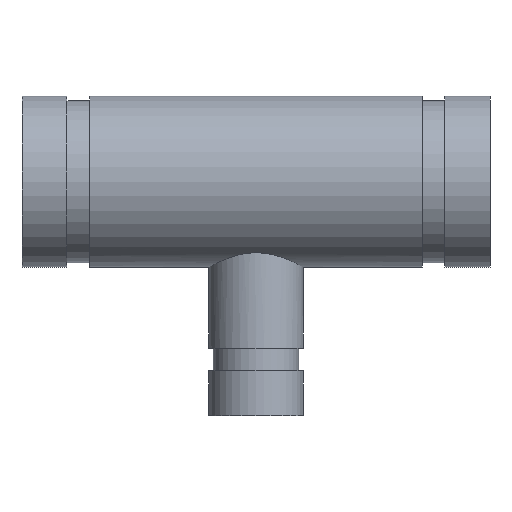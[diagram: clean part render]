
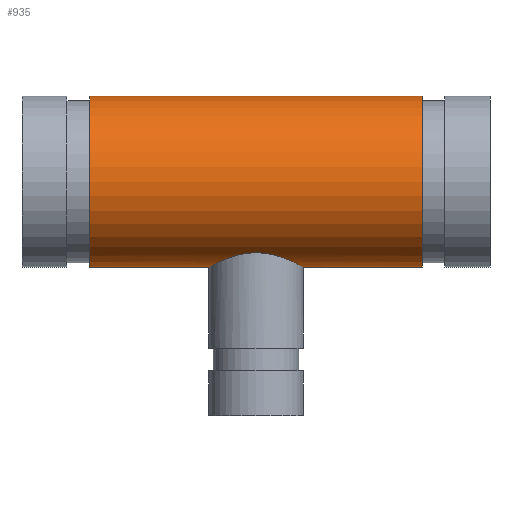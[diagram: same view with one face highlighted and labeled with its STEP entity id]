
A CAD part, top view. The second image highlights one B-rep face of the part: STEP entity #935.
In plain terms, the highlighted cylindrical face has radius 30.163 mm (diameter 60.325 mm), a full revolution.
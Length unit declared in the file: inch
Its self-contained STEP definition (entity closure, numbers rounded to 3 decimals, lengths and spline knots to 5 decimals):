
#61=FACE_BOUND('',#222,.T.);
#67=B_SPLINE_CURVE_WITH_KNOTS('',3,(#1791,#1792,#1793,#1794,#1795,#1796,
#1797,#1798,#1799,#1800,#1801,#1802,#1803,#1804,#1805,#1806),
 .UNSPECIFIED.,.F.,.F.,(4,2,2,2,2,2,2,4),(0.,0.32343,0.64685,
1.29371,1.61572,1.93773,2.25974,2.58175),
 .UNSPECIFIED.);
#68=B_SPLINE_CURVE_WITH_KNOTS('',3,(#1807,#1808,#1809,#1810,#1811,#1812,
#1813,#1814,#1815,#1816,#1817,#1818,#1819,#1820,#1821,#1822,#1823,#1824,
#1825,#1826,#1827,#1828,#1829,#1830,#1831,#1832,#1833,#1834,#1835,#1836,
#1837,#1838,#1839,#1840,#1841,#1842,#1843,#1844,#1845,#1846,#1847,#1848,
#1849,#1850),.UNSPECIFIED.,.F.,.F.,(4,2,2,2,2,2,2,2,2,2,2,2,2,2,2,2,2,2,
2,2,2,4),(2.58175,2.90376,3.22577,3.54778,
3.8698,4.51665,4.84008,5.16351,5.48693,
5.81036,6.45721,6.77923,7.10124,7.42325,
7.74526,8.06727,8.38928,8.71129,9.0333,
9.68016,10.00358,10.32701),.UNSPECIFIED.);
#81=CYLINDRICAL_SURFACE('',#1104,1.1875);
#103=LINE('',#1788,#125);
#125=VECTOR('',#1432,1.1875);
#171=FACE_OUTER_BOUND('',#221,.T.);
#221=EDGE_LOOP('',(#814,#815,#816,#817));
#222=EDGE_LOOP('',(#818,#819));
#326=CIRCLE('',#1087,1.1875);
#337=CIRCLE('',#1103,1.1875);
#424=VERTEX_POINT('',#1756);
#435=VERTEX_POINT('',#1785);
#436=VERTEX_POINT('',#1789);
#437=VERTEX_POINT('',#1790);
#552=EDGE_CURVE('',#424,#424,#326,.T.);
#565=EDGE_CURVE('',#435,#435,#337,.T.);
#566=EDGE_CURVE('',#435,#424,#103,.T.);
#567=EDGE_CURVE('',#436,#437,#67,.T.);
#568=EDGE_CURVE('',#437,#436,#68,.T.);
#814=ORIENTED_EDGE('',*,*,#565,.T.);
#815=ORIENTED_EDGE('',*,*,#566,.T.);
#816=ORIENTED_EDGE('',*,*,#552,.T.);
#817=ORIENTED_EDGE('',*,*,#566,.F.);
#818=ORIENTED_EDGE('',*,*,#567,.T.);
#819=ORIENTED_EDGE('',*,*,#568,.T.);
#935=ADVANCED_FACE('',(#171,#61),#81,.T.);
#1087=AXIS2_PLACEMENT_3D('',#1757,#1394,#1395);
#1103=AXIS2_PLACEMENT_3D('',#1786,#1428,#1429);
#1104=AXIS2_PLACEMENT_3D('',#1787,#1430,#1431);
#1394=DIRECTION('center_axis',(-1.,0.,0.));
#1395=DIRECTION('ref_axis',(0.,-1.,0.));
#1428=DIRECTION('center_axis',(1.,0.,0.));
#1429=DIRECTION('ref_axis',(0.,-1.,0.));
#1430=DIRECTION('center_axis',(-1.,0.,0.));
#1431=DIRECTION('ref_axis',(0.,-1.,0.));
#1432=DIRECTION('',(1.,0.,0.));
#1756=CARTESIAN_POINT('',(2.312,1.1875,0.));
#1757=CARTESIAN_POINT('Origin',(2.312,0.,0.));
#1785=CARTESIAN_POINT('',(-2.312,1.1875,0.));
#1786=CARTESIAN_POINT('Origin',(-2.312,0.,0.));
#1787=CARTESIAN_POINT('Origin',(3.25,0.,0.));
#1788=CARTESIAN_POINT('',(3.25,1.1875,0.));
#1789=CARTESIAN_POINT('',(0.,-0.98886,-0.6575));
#1790=CARTESIAN_POINT('',(-0.6575,-1.1875,0.));
#1791=CARTESIAN_POINT('Ctrl Pts',(0.,-0.98886,-0.6575));
#1792=CARTESIAN_POINT('Ctrl Pts',(-0.04244,-0.98886,
-0.6575));
#1793=CARTESIAN_POINT('Ctrl Pts',(-0.08592,-0.99168,
-0.65333));
#1794=CARTESIAN_POINT('Ctrl Pts',(-0.17166,-1.00275,
-0.6362));
#1795=CARTESIAN_POINT('Ctrl Pts',(-0.21393,-1.01099,
-0.62326));
#1796=CARTESIAN_POINT('Ctrl Pts',(-0.3348,-1.04108,
-0.57258));
#1797=CARTESIAN_POINT('Ctrl Pts',(-0.40744,-1.06825,
-0.5224));
#1798=CARTESIAN_POINT('Ctrl Pts',(-0.49354,-1.10488,
-0.43631));
#1799=CARTESIAN_POINT('Ctrl Pts',(-0.52056,-1.11731,
-0.40392));
#1800=CARTESIAN_POINT('Ctrl Pts',(-0.56851,-1.14044,
-0.33307));
#1801=CARTESIAN_POINT('Ctrl Pts',(-0.58944,-1.15112,-0.2946));
#1802=CARTESIAN_POINT('Ctrl Pts',(-0.6233,-1.16882,
-0.21383));
#1803=CARTESIAN_POINT('Ctrl Pts',(-0.63626,-1.17585,
-0.17146));
#1804=CARTESIAN_POINT('Ctrl Pts',(-0.65336,-1.18519,
-0.08567));
#1805=CARTESIAN_POINT('Ctrl Pts',(-0.6575,-1.1875,-0.04226));
#1806=CARTESIAN_POINT('Ctrl Pts',(-0.6575,-1.1875,0.));
#1807=CARTESIAN_POINT('Ctrl Pts',(-0.6575,-1.1875,0.));
#1808=CARTESIAN_POINT('Ctrl Pts',(-0.6575,-1.1875,0.04226));
#1809=CARTESIAN_POINT('Ctrl Pts',(-0.65336,-1.18519,
0.08567));
#1810=CARTESIAN_POINT('Ctrl Pts',(-0.63626,-1.17585,
0.17146));
#1811=CARTESIAN_POINT('Ctrl Pts',(-0.6233,-1.16882,
0.21383));
#1812=CARTESIAN_POINT('Ctrl Pts',(-0.58944,-1.15112,0.2946));
#1813=CARTESIAN_POINT('Ctrl Pts',(-0.56851,-1.14044,
0.33307));
#1814=CARTESIAN_POINT('Ctrl Pts',(-0.52056,-1.11731,
0.40392));
#1815=CARTESIAN_POINT('Ctrl Pts',(-0.49354,-1.10488,
0.43631));
#1816=CARTESIAN_POINT('Ctrl Pts',(-0.40744,-1.06825,
0.5224));
#1817=CARTESIAN_POINT('Ctrl Pts',(-0.3348,-1.04108,
0.57258));
#1818=CARTESIAN_POINT('Ctrl Pts',(-0.21393,-1.01099,
0.62326));
#1819=CARTESIAN_POINT('Ctrl Pts',(-0.17166,-1.00275,
0.6362));
#1820=CARTESIAN_POINT('Ctrl Pts',(-0.08592,-0.99168,
0.65333));
#1821=CARTESIAN_POINT('Ctrl Pts',(-0.04244,-0.98886,
0.6575));
#1822=CARTESIAN_POINT('Ctrl Pts',(0.04244,-0.98886,
0.6575));
#1823=CARTESIAN_POINT('Ctrl Pts',(0.08592,-0.99168,
0.65333));
#1824=CARTESIAN_POINT('Ctrl Pts',(0.17166,-1.00275,0.6362));
#1825=CARTESIAN_POINT('Ctrl Pts',(0.21393,-1.01099,0.62326));
#1826=CARTESIAN_POINT('Ctrl Pts',(0.3348,-1.04108,0.57258));
#1827=CARTESIAN_POINT('Ctrl Pts',(0.40744,-1.06825,0.5224));
#1828=CARTESIAN_POINT('Ctrl Pts',(0.49354,-1.10488,0.43631));
#1829=CARTESIAN_POINT('Ctrl Pts',(0.52056,-1.11731,0.40392));
#1830=CARTESIAN_POINT('Ctrl Pts',(0.56851,-1.14044,0.33307));
#1831=CARTESIAN_POINT('Ctrl Pts',(0.58944,-1.15112,0.2946));
#1832=CARTESIAN_POINT('Ctrl Pts',(0.6233,-1.16882,0.21383));
#1833=CARTESIAN_POINT('Ctrl Pts',(0.63626,-1.17585,0.17146));
#1834=CARTESIAN_POINT('Ctrl Pts',(0.65336,-1.18519,0.08567));
#1835=CARTESIAN_POINT('Ctrl Pts',(0.6575,-1.1875,0.04226));
#1836=CARTESIAN_POINT('Ctrl Pts',(0.6575,-1.1875,-0.04226));
#1837=CARTESIAN_POINT('Ctrl Pts',(0.65336,-1.18519,-0.08567));
#1838=CARTESIAN_POINT('Ctrl Pts',(0.63626,-1.17585,-0.17146));
#1839=CARTESIAN_POINT('Ctrl Pts',(0.6233,-1.16882,-0.21383));
#1840=CARTESIAN_POINT('Ctrl Pts',(0.58944,-1.15112,-0.2946));
#1841=CARTESIAN_POINT('Ctrl Pts',(0.56851,-1.14044,-0.33307));
#1842=CARTESIAN_POINT('Ctrl Pts',(0.52056,-1.11731,-0.40392));
#1843=CARTESIAN_POINT('Ctrl Pts',(0.49354,-1.10488,-0.43631));
#1844=CARTESIAN_POINT('Ctrl Pts',(0.40744,-1.06825,-0.5224));
#1845=CARTESIAN_POINT('Ctrl Pts',(0.3348,-1.04108,-0.57258));
#1846=CARTESIAN_POINT('Ctrl Pts',(0.21393,-1.01099,-0.62326));
#1847=CARTESIAN_POINT('Ctrl Pts',(0.17166,-1.00275,-0.6362));
#1848=CARTESIAN_POINT('Ctrl Pts',(0.08592,-0.99168,
-0.65333));
#1849=CARTESIAN_POINT('Ctrl Pts',(0.04244,-0.98886,
-0.6575));
#1850=CARTESIAN_POINT('Ctrl Pts',(0.,-0.98886,
-0.6575));
